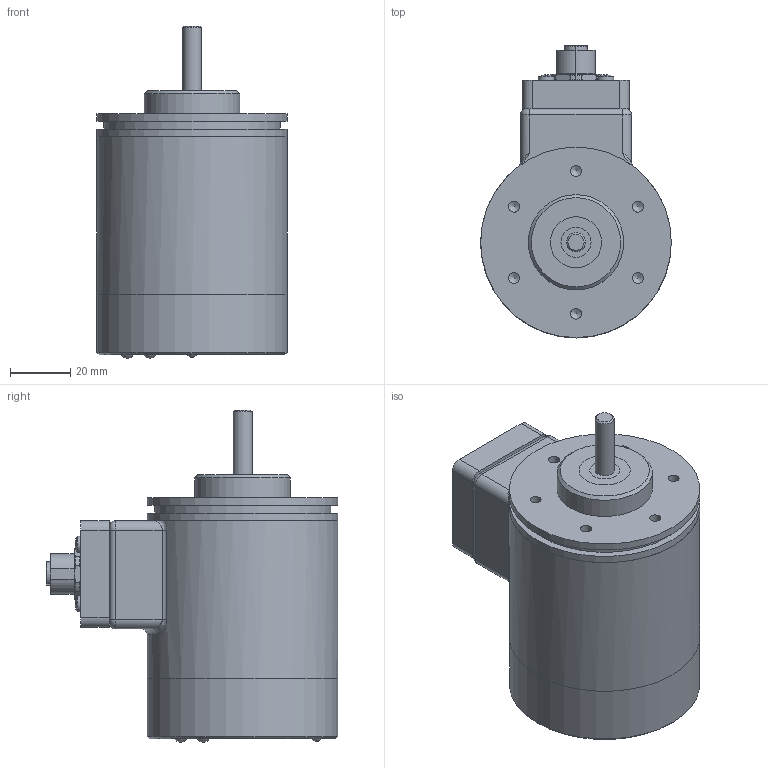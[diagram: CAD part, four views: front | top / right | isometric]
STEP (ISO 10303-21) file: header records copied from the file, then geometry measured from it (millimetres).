
FILE_DESCRIPTION(/* description */ ('Alibre Inc.'),/* implementation_level */ '2;1');
FILE_NAME(/* name */ 'export0',/* time_stamp */ '2010-05-25T09:17:41-04:00',/* author */ (''),/* organization */ (''),/* preprocessor_version */ 'ST-DEVELOPER v10',/* originating_system */ 'Alibre',/* authorisation */ '');
FILE_SCHEMA (('CONFIG_CONTROL_DESIGN'));
Length unit declared in the file: centimetre
Products named in the file (14): ID_1; ID_2; ID_3; ID_4; ID_5; ID_6; ID_7; ID_8; ID_9; ID_10; ID_11
Bounding box: 63.5 x 97.22 x 110.63 mm (x, y, z)
Volume: 290397.5 mm3; surface area: 52529.5 mm2
Topology: 15 solids, 15 shells, 341 faces, 748 edges, 481 vertices
Faces by surface type: plane 109, cylinder 106, bspline 72, cone 42, torus 8, sphere 4
Full cylindrical faces by diameter (mm): 2.87 x4, 2.92 x2, 3 x21, 3.65 x6, 3.96 x4, 5.44 x4, 6.35 x1, 10 x3, 11.5 x2, 17 x2, 24 x1, 26 x2, 31.75 x1, 58.674 x1, 58.72 x2, 63.5 x4
Entity records: 9278 total; most frequent: CARTESIAN_POINT 2339, DIRECTION 1107, ORIENTED_EDGE 992, AXIS2_PLACEMENT_3D 521, EDGE_CURVE 496, FACE_BOUND 395, EDGE_LOOP 389, VERTEX_POINT 359
